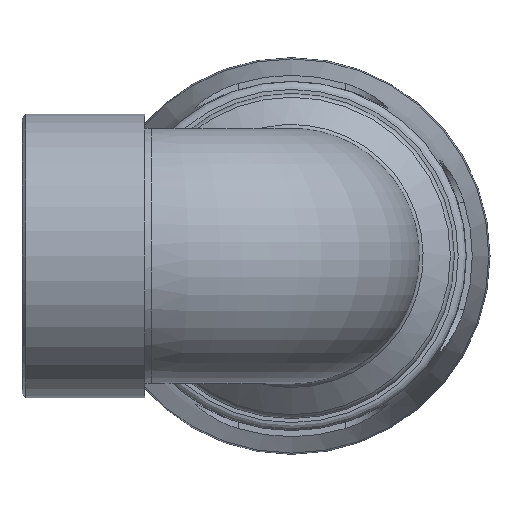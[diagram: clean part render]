
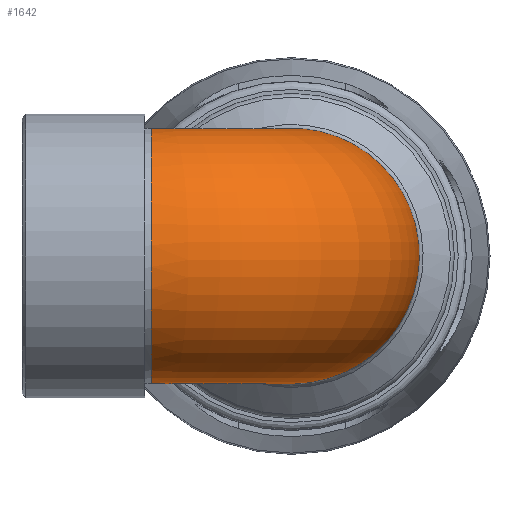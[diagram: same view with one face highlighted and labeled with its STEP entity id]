
A CAD part, left-side view. The second image highlights one B-rep face of the part: STEP entity #1642.
In plain terms, the highlighted toroidal (fillet/blend) face has major radius 36.452 mm and minor radius 33.144 mm.
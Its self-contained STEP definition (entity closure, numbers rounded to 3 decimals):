
#277=TOROIDAL_SURFACE('',#1796,36.452,33.144);
#328=FACE_OUTER_BOUND('',#453,.T.);
#453=EDGE_LOOP('',(#1195,#1196));
#562=B_SPLINE_CURVE_WITH_KNOTS('',3,(#2717,#2718,#2719,#2720,#2721,#2722,
#2723,#2724,#2725,#2726,#2727,#2728,#2729,#2730,#2731,#2732,#2733,#2734,
#2735,#2736,#2737,#2738,#2739,#2740,#2741,#2742,#2743,#2744,#2745,#2746,
#2747,#2748,#2749,#2750,#2751,#2752,#2753,#2754,#2755),.UNSPECIFIED.,.F.,
 .F.,(4,1,1,1,1,1,1,1,1,1,1,1,1,1,1,1,1,1,1,1,1,1,1,1,1,1,1,1,1,1,1,1,1,
1,1,1,4),(-2.307,-2.296,-2.286,-2.266,
-2.245,-2.225,-2.184,-2.143,
-2.061,-1.978,-1.65,-1.213,
-0.994,-0.775,-0.556,-0.337,
-0.118,0.101,0.319,0.429,
0.538,0.757,0.976,1.195,
1.414,1.633,1.797,1.961,2.043,
2.125,2.166,2.207,2.227,2.248,
2.269,2.279,2.289),.UNSPECIFIED.);
#669=CIRCLE('',#1791,33.144);
#728=VERTEX_POINT('',#2714);
#729=VERTEX_POINT('',#2716);
#890=EDGE_CURVE('',#728,#729,#562,.T.);
#932=EDGE_CURVE('',#728,#729,#669,.T.);
#1195=ORIENTED_EDGE('',*,*,#890,.F.);
#1196=ORIENTED_EDGE('',*,*,#932,.T.);
#1642=ADVANCED_FACE('',(#328),#277,.T.);
#1791=AXIS2_PLACEMENT_3D('',#2929,#2051,#2052);
#1796=AXIS2_PLACEMENT_3D('',#2937,#2061,#2062);
#2051=DIRECTION('center_axis',(0.,-1.,0.));
#2052=DIRECTION('ref_axis',(-1.,0.,0.));
#2061=DIRECTION('center_axis',(0.,0.,1.));
#2062=DIRECTION('ref_axis',(1.,0.,0.));
#2714=CARTESIAN_POINT('',(32.769,36.452,4.97));
#2716=CARTESIAN_POINT('',(32.769,36.452,-4.97));
#2717=CARTESIAN_POINT('Ctrl Pts',(32.769,36.452,4.97));
#2718=CARTESIAN_POINT('Ctrl Pts',(32.748,36.2,5.11));
#2719=CARTESIAN_POINT('Ctrl Pts',(32.751,35.761,5.395));
#2720=CARTESIAN_POINT('Ctrl Pts',(32.842,35.05,5.969));
#2721=CARTESIAN_POINT('Ctrl Pts',(33.026,34.379,6.68));
#2722=CARTESIAN_POINT('Ctrl Pts',(33.254,33.756,7.521));
#2723=CARTESIAN_POINT('Ctrl Pts',(33.545,33.062,8.644));
#2724=CARTESIAN_POINT('Ctrl Pts',(33.852,32.332,10.058));
#2725=CARTESIAN_POINT('Ctrl Pts',(34.212,31.274,12.263));
#2726=CARTESIAN_POINT('Ctrl Pts',(34.5,29.92,14.955));
#2727=CARTESIAN_POINT('Ctrl Pts',(34.882,26.229,21.08));
#2728=CARTESIAN_POINT('Ctrl Pts',(35.041,17.362,29.918));
#2729=CARTESIAN_POINT('Ctrl Pts',(35.103,3.172,34.071));
#2730=CARTESIAN_POINT('Ctrl Pts',(35.125,-9.453,32.227));
#2731=CARTESIAN_POINT('Ctrl Pts',(35.137,-18.152,28.265));
#2732=CARTESIAN_POINT('Ctrl Pts',(35.144,-25.38,21.997));
#2733=CARTESIAN_POINT('Ctrl Pts',(35.148,-30.551,13.954));
#2734=CARTESIAN_POINT('Ctrl Pts',(35.15,-33.244,4.776));
#2735=CARTESIAN_POINT('Ctrl Pts',(35.15,-33.243,-4.787));
#2736=CARTESIAN_POINT('Ctrl Pts',(35.148,-30.995,-12.433));
#2737=CARTESIAN_POINT('Ctrl Pts',(35.146,-27.96,-17.985));
#2738=CARTESIAN_POINT('Ctrl Pts',(35.143,-24.168,-23.05));
#2739=CARTESIAN_POINT('Ctrl Pts',(35.137,-18.144,-28.267));
#2740=CARTESIAN_POINT('Ctrl Pts',(35.126,-9.443,-32.238));
#2741=CARTESIAN_POINT('Ctrl Pts',(35.107,0.024,-33.597));
#2742=CARTESIAN_POINT('Ctrl Pts',(35.075,9.492,-32.238));
#2743=CARTESIAN_POINT('Ctrl Pts',(35.02,17.472,-28.605));
#2744=CARTESIAN_POINT('Ctrl Pts',(34.917,23.675,-23.641));
#2745=CARTESIAN_POINT('Ctrl Pts',(34.762,27.456,-19.036));
#2746=CARTESIAN_POINT('Ctrl Pts',(34.496,29.929,-14.942));
#2747=CARTESIAN_POINT('Ctrl Pts',(34.213,31.274,-12.262));
#2748=CARTESIAN_POINT('Ctrl Pts',(33.848,32.341,-10.04));
#2749=CARTESIAN_POINT('Ctrl Pts',(33.544,33.063,-8.643));
#2750=CARTESIAN_POINT('Ctrl Pts',(33.254,33.755,-7.522));
#2751=CARTESIAN_POINT('Ctrl Pts',(33.018,34.397,-6.656));
#2752=CARTESIAN_POINT('Ctrl Pts',(32.837,35.078,-5.945));
#2753=CARTESIAN_POINT('Ctrl Pts',(32.752,35.764,-5.394));
#2754=CARTESIAN_POINT('Ctrl Pts',(32.747,36.197,-5.112));
#2755=CARTESIAN_POINT('Ctrl Pts',(32.769,36.452,-4.97));
#2929=CARTESIAN_POINT('Origin',(0.,36.452,0.));
#2937=CARTESIAN_POINT('Origin',(36.452,36.452,0.));
